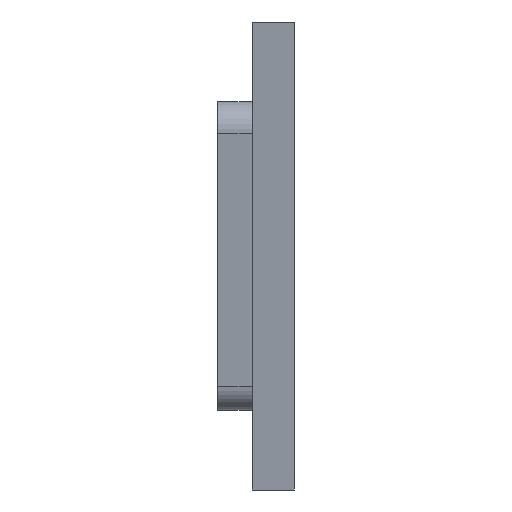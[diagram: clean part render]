
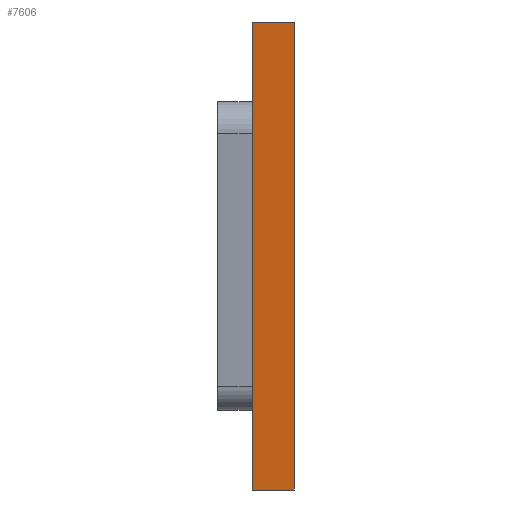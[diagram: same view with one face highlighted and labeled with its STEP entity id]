
A CAD part, left-side view. The second image highlights one B-rep face of the part: STEP entity #7606.
In plain terms, the highlighted planar face has unit normal (-0.99, 0, -0.139).
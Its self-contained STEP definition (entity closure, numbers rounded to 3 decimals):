
#7 = EDGE_LOOP ( 'NONE', ( #12750, #10574, #8299, #15838 ) ) ;
#113 = VECTOR ( 'NONE', #11278, 1000. ) ;
#1440 = VECTOR ( 'NONE', #5731, 1000. ) ;
#2010 = DIRECTION ( 'NONE',  ( 0., 1., 0. ) ) ;
#2200 = LINE ( 'NONE', #12733, #113 ) ;
#2752 = VERTEX_POINT ( 'NONE', #16338 ) ;
#3814 = VERTEX_POINT ( 'NONE', #4499 ) ;
#3860 = VECTOR ( 'NONE', #13686, 1000. ) ;
#4275 = PLANE ( 'NONE',  #5008 ) ;
#4499 = CARTESIAN_POINT ( 'NONE',  ( -27.439, -4.5, 25. ) ) ;
#4601 = FACE_OUTER_BOUND ( 'NONE', #7, .T. ) ;
#5008 = AXIS2_PLACEMENT_3D ( 'NONE', #10774, #8458, #16105 ) ;
#5057 = EDGE_CURVE ( 'NONE', #11875, #2752, #5651, .T. ) ;
#5281 = CARTESIAN_POINT ( 'NONE',  ( -20.411, 0., -25. ) ) ;
#5651 = LINE ( 'NONE', #11113, #1440 ) ;
#5731 = DIRECTION ( 'NONE',  ( -0.139, 0., 0.99 ) ) ;
#7488 = CARTESIAN_POINT ( 'NONE',  ( -27.439, -4.5, 25. ) ) ;
#7606 = ADVANCED_FACE ( 'NONE', ( #4601 ), #4275, .T. ) ;
#7697 = EDGE_CURVE ( 'NONE', #12803, #11875, #2200, .T. ) ;
#8299 = ORIENTED_EDGE ( 'NONE', *, *, #14012, .T. ) ;
#8319 = VECTOR ( 'NONE', #2010, 1000. ) ;
#8458 = DIRECTION ( 'NONE',  ( -0.99, 0., -0.139 ) ) ;
#8945 = EDGE_CURVE ( 'NONE', #3814, #2752, #16480, .T. ) ;
#9740 = LINE ( 'NONE', #7488, #3860 ) ;
#10040 = CARTESIAN_POINT ( 'NONE',  ( -27.439, -4.5, 25. ) ) ;
#10574 = ORIENTED_EDGE ( 'NONE', *, *, #7697, .F. ) ;
#10774 = CARTESIAN_POINT ( 'NONE',  ( -27.439, -4.5, 25. ) ) ;
#11113 = CARTESIAN_POINT ( 'NONE',  ( -27.439, 0., 25. ) ) ;
#11278 = DIRECTION ( 'NONE',  ( 0., 1., 0. ) ) ;
#11875 = VERTEX_POINT ( 'NONE', #5281 ) ;
#12733 = CARTESIAN_POINT ( 'NONE',  ( -20.411, -4.5, -25. ) ) ;
#12750 = ORIENTED_EDGE ( 'NONE', *, *, #5057, .F. ) ;
#12803 = VERTEX_POINT ( 'NONE', #14948 ) ;
#13686 = DIRECTION ( 'NONE',  ( -0.139, 0., 0.99 ) ) ;
#14012 = EDGE_CURVE ( 'NONE', #12803, #3814, #9740, .T. ) ;
#14948 = CARTESIAN_POINT ( 'NONE',  ( -20.411, -4.5, -25. ) ) ;
#15838 = ORIENTED_EDGE ( 'NONE', *, *, #8945, .T. ) ;
#16105 = DIRECTION ( 'NONE',  ( -0.139, 0., 0.99 ) ) ;
#16338 = CARTESIAN_POINT ( 'NONE',  ( -27.439, 0., 25. ) ) ;
#16480 = LINE ( 'NONE', #10040, #8319 ) ;
